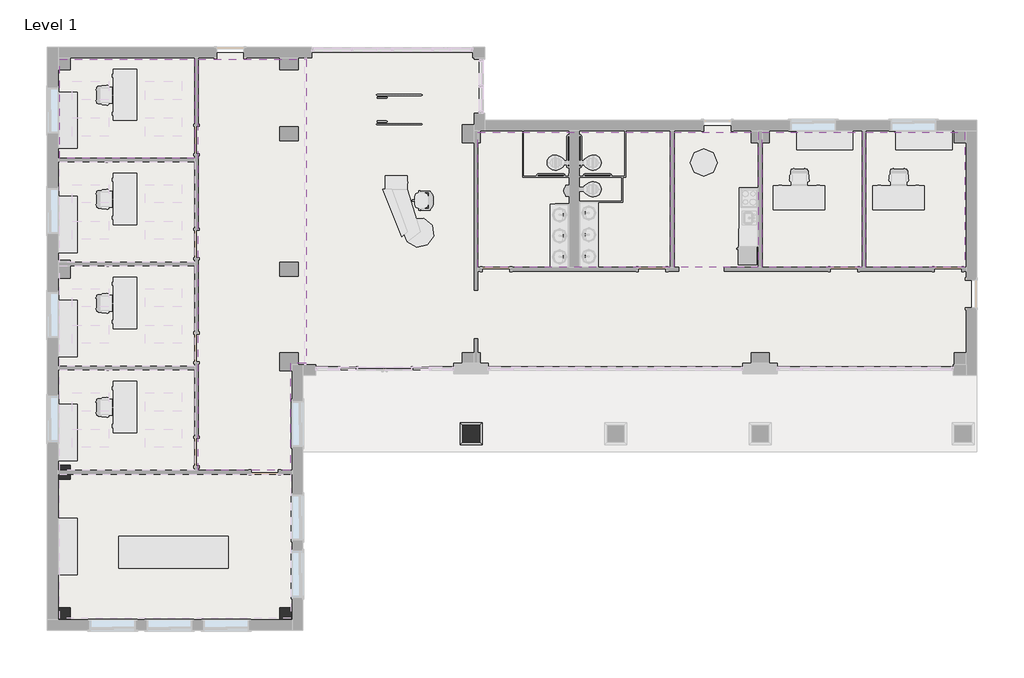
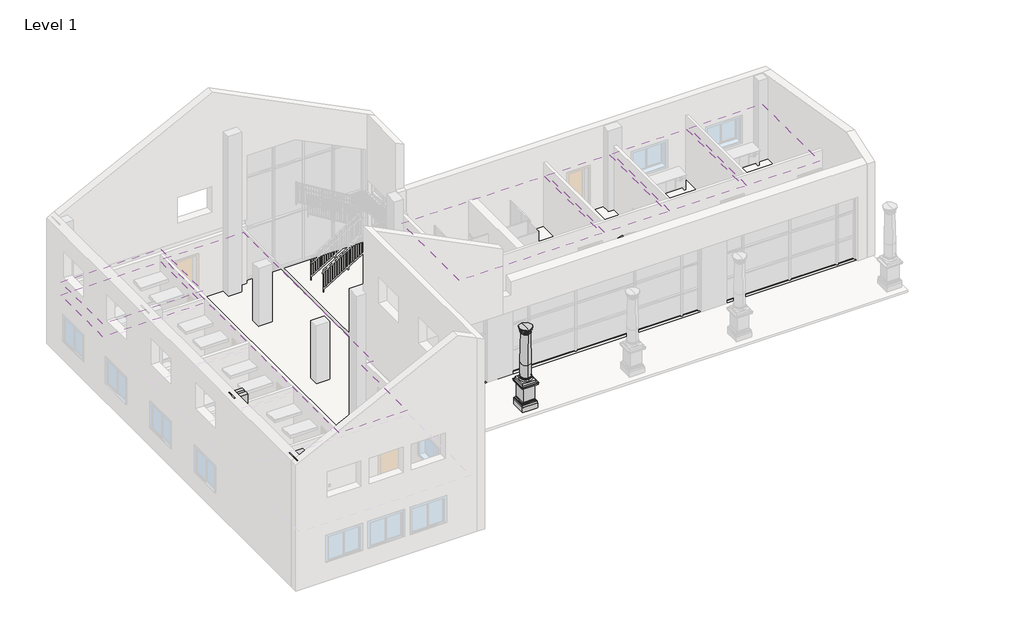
# One storey, part 4 of 8: 7 coverings, 4 columns, 1 slab.
"""IFC4 building model written with IfcOpenShell, lengths in millimetres."""

from ifc_helpers import new_model, si_unit, point, frame, origin, place, context, project, spatial, polyline, circle_curve, ellipse_curve, trimmed, outline, extrude, faceted_brep, element, save
from ifc_brep_helpers import plane_surface, cylinder_surface, revolved_surface, advanced_brep

model = new_model("IFC4")

# Units and contexts
model_context = context("Model", 3, world=origin())
ifc_project = project(units=[si_unit("LENGTHUNIT", "METRE", prefix="MILLI")], contexts=[model_context])

# Site, building, storey
site = spatial("IfcSite", under=ifc_project)
building = spatial("IfcBuilding", under=site)
storey = spatial("IfcBuildingStorey", under=building, Name="Level 1", Elevation=0.0)

# Columns
placement = place(None, origin())
element("IfcColumn", 1, ObjectType="Doric Column : 16'  Height (10 2/3 x Dia.)", at=placement, inside=storey, context=model_context, shape_type="SolidModel", body=[
    extrude(outline(polyline([(529.1733448, -1720.0769576), (529.1733448, -2297.9269576), (-48.6766552, -2297.9269576), (-48.6766552, -1720.0769576), (529.1733448, -1720.0769576)])), frame((0.0, 0.0, 1117.6), z_axis=(0.0, 0.0, 1.0), x_axis=(1.0, 0.0, 0.0)), (0.0, 0.0, 1.0), 107.95),
    faceted_brep([(11.6483448, -2237.6019576, 1117.6), (-131.2266552, -2380.4769576, 1117.6), (611.7233448, -2380.4769576, 1117.6), (468.8483448, -2237.6019576, 1117.6), (11.6483448, -2237.6019576, 1003.3), (468.8483448, -2237.6019576, 1003.3), (-59.6345723, -2308.8848746, 1003.3), (540.1312619, -2308.8848746, 1003.3), (-93.1266552, -2342.3769576, 1028.7), (573.6233448, -2342.3769576, 1028.7), (-118.5266552, -2367.7769576, 1028.7), (599.0233448, -2367.7769576, 1028.7), (-118.5266552, -2367.7769576, 1092.2), (599.0233448, -2367.7769576, 1092.2), (-131.2266552, -2380.4769576, 1092.2), (611.7233448, -2380.4769576, 1092.2), (611.7233448, -1637.5269576, 1117.6), (468.8483448, -1780.4019576, 1117.6), (468.8483448, -1780.4019576, 1003.3), (540.1312619, -1709.1190405, 1003.3), (573.6233448, -1675.6269576, 1028.7), (599.0233448, -1650.2269576, 1028.7), (599.0233448, -1650.2269576, 1092.2), (611.7233448, -1637.5269576, 1092.2), (-131.2266552, -1637.5269576, 1117.6), (11.6483448, -1780.4019576, 1117.6), (11.6483448, -1780.4019576, 1003.3), (-59.6345723, -1709.1190405, 1003.3), (-93.1266552, -1675.6269576, 1028.7), (-118.5266552, -1650.2269576, 1028.7), (-118.5266552, -1650.2269576, 1092.2), (-131.2266552, -1637.5269576, 1092.2)], [[[0, 1, 2, 3]], [[4, 0, 3, 5]], [[6, 4, 5, 7]], [[8, 6, 7, 9]], [[10, 8, 9, 11]], [[12, 10, 11, 13]], [[14, 12, 13, 15]], [[1, 14, 15, 2]], [[3, 2, 16, 17]], [[5, 3, 17, 18]], [[7, 5, 18, 19]], [[9, 7, 19, 20]], [[11, 9, 20, 21]], [[13, 11, 21, 22]], [[15, 13, 22, 23]], [[2, 15, 23, 16]], [[17, 16, 24, 25]], [[18, 17, 25, 26]], [[19, 18, 26, 27]], [[20, 19, 27, 28]], [[21, 20, 28, 29]], [[22, 21, 29, 30]], [[23, 22, 30, 31]], [[16, 23, 31, 24]], [[25, 24, 1, 0]], [[26, 25, 0, 4]], [[27, 26, 4, 6]], [[28, 27, 6, 8]], [[29, 28, 8, 10]], [[30, 29, 10, 12]], [[31, 30, 12, 14]], [[24, 31, 14, 1]]]),
    advanced_brep(
    [(240.2483448, -2256.6519576, 1358.9), (240.2483448, -1761.3519576, 1358.9), (240.2483448, -1780.4019576, 1377.95), (240.2483448, -2237.6019576, 1377.95), (240.2483448, -1780.4019576, 1976.1708333), (240.2483448, -2237.6019576, 1976.1708333), (240.2483448, -2256.6519576, 1339.85), (240.2483448, -1761.3519576, 1339.85), (240.2483448, -2256.6519576, 1308.1), (240.2483448, -1761.3519576, 1308.1), (240.2483448, -2256.6519576, 1225.55), (240.2483448, -1761.3519576, 1225.55), (240.2483448, -2009.0019576, 1225.55), (240.2483448, -1808.9769576, 3439.3125), (240.2483448, -2209.0269576, 3439.3125), (240.2483448, -2301.1019576, 3674.2625601), (240.2483448, -1716.9019576, 3674.2625601), (240.2483448, -1716.9019576, 3693.3125), (240.2483448, -2301.1019576, 3693.3125), (240.2483448, -2009.0019576, 3693.3125), (240.2483448, -2282.0518974, 3655.2125), (240.2483448, -1735.9520177, 3655.2125), (240.2483448, -2278.8769576, 3655.2125), (240.2483448, -1739.1269576, 3655.2125), (240.2483448, -2278.8769576, 3604.4125), (240.2483448, -1739.1269576, 3604.4125), (240.2483448, -2272.5269576, 3604.4125), (240.2483448, -1745.4769576, 3604.4125), (240.2483448, -2228.0769576, 3559.9625), (240.2483448, -1789.9269576, 3559.9625), (240.2483448, -2228.0769576, 3540.9125), (240.2483448, -1789.9269576, 3540.9125), (240.2483448, -2209.0269576, 3540.9125), (240.2483448, -1808.9769576, 3540.9125), (240.2483448, -2209.0269576, 3458.3625), (240.2483448, -1808.9769576, 3458.3625), (240.2483448, -2228.0769576, 3458.3625), (240.2483448, -1789.9269576, 3458.3625), (240.2483448, -2228.0769576, 3439.3125), (240.2483448, -1789.9269576, 3439.3125)],
    [
        (0, 1, circle_curve(frame((240.2483448, -2009.0019576, 1358.9), z_axis=(0.0, 0.0, 1.0), x_axis=(0.0, 1.0, 0.0)), 247.65)),
        (1, 2, circle_curve(frame((240.2483448, -1761.3519576, 1377.95), z_axis=(-1.0, 0.0, 0.0), x_axis=(0.0, -1.0, 0.0)), 19.05)),
        (2, 3, circle_curve(frame((240.2483448, -2009.0019576, 1377.95), z_axis=(0.0, 0.0, -1.0), x_axis=(0.0, 1.0, 0.0)), 228.6)),
        (3, 0, circle_curve(frame((240.2483448, -2256.6519576, 1377.95), z_axis=(-1.0, 0.0, 0.0), x_axis=(0.0, 1.0, 0.0)), 19.05)),
        (2, 4),
        (4, 5, circle_curve(frame((240.2483448, -2009.0019576, 1976.1708333), z_axis=(0.0, 0.0, -1.0), x_axis=(0.0, 1.0, 0.0)), 228.6)),
        (5, 3),
        (2, 3, circle_curve(frame((240.2483448, -2009.0019576, 1377.95), z_axis=(0.0, 0.0, 1.0), x_axis=(0.0, 1.0, 0.0)), 228.6)),
        (5, 4, circle_curve(frame((240.2483448, -2009.0019576, 1976.1708333), z_axis=(0.0, 0.0, -1.0), x_axis=(0.0, 1.0, 0.0)), 228.6)),
        (1, 0, circle_curve(frame((240.2483448, -2009.0019576, 1358.9), z_axis=(0.0, 0.0, 1.0), x_axis=(0.0, 1.0, 0.0)), 247.65)),
        (6, 7, circle_curve(frame((240.2483448, -2009.0019576, 1339.85), z_axis=(0.0, 0.0, 1.0), x_axis=(0.0, 1.0, 0.0)), 247.65)),
        (7, 1),
        (0, 6),
        (7, 6, circle_curve(frame((240.2483448, -2009.0019576, 1339.85), z_axis=(0.0, 0.0, 1.0), x_axis=(0.0, 1.0, 0.0)), 247.65)),
        (8, 9, circle_curve(frame((240.2483448, -2009.0019576, 1308.1), z_axis=(0.0, 0.0, 1.0), x_axis=(0.0, 1.0, 0.0)), 247.65)),
        (9, 7, circle_curve(frame((240.2483448, -1761.3519576, 1323.975), z_axis=(1.0, 0.0, 0.0), x_axis=(0.0, -1.0, 0.0)), 15.875)),
        (6, 8, circle_curve(frame((240.2483448, -2256.6519576, 1323.975), z_axis=(1.0, 0.0, 0.0), x_axis=(0.0, 1.0, 0.0)), 15.875)),
        (9, 8, circle_curve(frame((240.2483448, -2009.0019576, 1308.1), z_axis=(0.0, 0.0, 1.0), x_axis=(0.0, 1.0, 0.0)), 247.65)),
        (10, 11, circle_curve(frame((240.2483448, -2009.0019576, 1225.55), z_axis=(0.0, 0.0, 1.0), x_axis=(0.0, 1.0, 0.0)), 247.65)),
        (11, 9, circle_curve(frame((240.2483448, -1761.3519576, 1266.825), z_axis=(1.0, 0.0, 0.0), x_axis=(0.0, -1.0, 0.0)), 41.275)),
        (8, 10, circle_curve(frame((240.2483448, -2256.6519576, 1266.825), z_axis=(1.0, 0.0, 0.0), x_axis=(0.0, 1.0, 0.0)), 41.275)),
        (11, 10, circle_curve(frame((240.2483448, -2009.0019576, 1225.55), z_axis=(0.0, 0.0, 1.0), x_axis=(0.0, 1.0, 0.0)), 247.65)),
        (12, 11),
        (10, 12),
        (4, 13),
        (13, 14, circle_curve(frame((240.2483448, -2009.0019576, 3439.3125), z_axis=(0.0, 0.0, -1.0), x_axis=(0.0, 1.0, 0.0)), 200.025)),
        (14, 5),
        (14, 13, circle_curve(frame((240.2483448, -2009.0019576, 3439.3125), z_axis=(0.0, 0.0, -1.0), x_axis=(0.0, 1.0, 0.0)), 200.025)),
        (15, 16, circle_curve(frame((240.2483448, -2009.0019576, 3674.2625601), z_axis=(0.0, 0.0, 1.0), x_axis=(0.0, 1.0, 0.0)), 292.1)),
        (16, 17),
        (17, 18, circle_curve(frame((240.2483448, -2009.0019576, 3693.3125), z_axis=(0.0, 0.0, -1.0), x_axis=(0.0, 1.0, 0.0)), 292.1)),
        (18, 15),
        (17, 19),
        (19, 18),
        (17, 18, circle_curve(frame((240.2483448, -2009.0019576, 3693.3125), z_axis=(0.0, 0.0, 1.0), x_axis=(0.0, 1.0, 0.0)), 292.1)),
        (16, 15, circle_curve(frame((240.2483448, -2009.0019576, 3674.2625601), z_axis=(0.0, 0.0, 1.0), x_axis=(0.0, 1.0, 0.0)), 292.1)),
        (20, 21, circle_curve(frame((240.2483448, -2009.0019576, 3655.2125), z_axis=(0.0, 0.0, 1.0), x_axis=(0.0, 1.0, 0.0)), 273.0499399)),
        (21, 16, circle_curve(frame((240.2483448, -1716.9019576, 3655.2125), z_axis=(-1.0, 0.0, 0.0), x_axis=(0.0, -1.0, 0.0)), 19.0500601)),
        (15, 20, circle_curve(frame((240.2483448, -2301.1019576, 3655.2125), z_axis=(-1.0, 0.0, 0.0), x_axis=(0.0, 1.0, 0.0)), 19.0500601)),
        (21, 20, circle_curve(frame((240.2483448, -2009.0019576, 3655.2125), z_axis=(0.0, 0.0, 1.0), x_axis=(0.0, 1.0, 0.0)), 273.0499399)),
        (22, 23, circle_curve(frame((240.2483448, -2009.0019576, 3655.2125), z_axis=(0.0, 0.0, 1.0), x_axis=(0.0, 1.0, 0.0)), 269.875)),
        (23, 21),
        (20, 22),
        (23, 22, circle_curve(frame((240.2483448, -2009.0019576, 3655.2125), z_axis=(0.0, 0.0, 1.0), x_axis=(0.0, 1.0, 0.0)), 269.875)),
        (24, 25, circle_curve(frame((240.2483448, -2009.0019576, 3604.4125), z_axis=(0.0, 0.0, 1.0), x_axis=(0.0, 1.0, 0.0)), 269.875)),
        (25, 23),
        (22, 24),
        (25, 24, circle_curve(frame((240.2483448, -2009.0019576, 3604.4125), z_axis=(0.0, 0.0, 1.0), x_axis=(0.0, 1.0, 0.0)), 269.875)),
        (26, 27, circle_curve(frame((240.2483448, -2009.0019576, 3604.4125), z_axis=(0.0, 0.0, 1.0), x_axis=(0.0, 1.0, 0.0)), 263.525)),
        (27, 25),
        (24, 26),
        (27, 26, circle_curve(frame((240.2483448, -2009.0019576, 3604.4125), z_axis=(0.0, 0.0, 1.0), x_axis=(0.0, 1.0, 0.0)), 263.525)),
        (28, 29, circle_curve(frame((240.2483448, -2009.0019576, 3559.9625), z_axis=(0.0, 0.0, 1.0), x_axis=(0.0, 1.0, 0.0)), 219.075)),
        (29, 27, circle_curve(frame((240.2483448, -1789.9269576, 3604.4125), z_axis=(1.0, 0.0, 0.0), x_axis=(0.0, -1.0, 0.0)), 44.45)),
        (26, 28, circle_curve(frame((240.2483448, -2228.0769576, 3604.4125), z_axis=(1.0, 0.0, 0.0), x_axis=(0.0, 1.0, 0.0)), 44.45)),
        (29, 28, circle_curve(frame((240.2483448, -2009.0019576, 3559.9625), z_axis=(0.0, 0.0, 1.0), x_axis=(0.0, 1.0, 0.0)), 219.075)),
        (30, 31, circle_curve(frame((240.2483448, -2009.0019576, 3540.9125), z_axis=(0.0, 0.0, 1.0), x_axis=(0.0, 1.0, 0.0)), 219.075)),
        (31, 29, circle_curve(frame((240.2483448, -1789.9269576, 3550.4375), z_axis=(1.0, 0.0, 0.0), x_axis=(0.0, -1.0, 0.0)), 9.525)),
        (28, 30, circle_curve(frame((240.2483448, -2228.0769576, 3550.4375), z_axis=(1.0, 0.0, 0.0), x_axis=(0.0, 1.0, 0.0)), 9.525)),
        (31, 30, circle_curve(frame((240.2483448, -2009.0019576, 3540.9125), z_axis=(0.0, 0.0, 1.0), x_axis=(0.0, 1.0, 0.0)), 219.075)),
        (32, 33, circle_curve(frame((240.2483448, -2009.0019576, 3540.9125), z_axis=(0.0, 0.0, 1.0), x_axis=(0.0, 1.0, 0.0)), 200.025)),
        (33, 31),
        (30, 32),
        (33, 32, circle_curve(frame((240.2483448, -2009.0019576, 3540.9125), z_axis=(0.0, 0.0, 1.0), x_axis=(0.0, 1.0, 0.0)), 200.025)),
        (34, 35, circle_curve(frame((240.2483448, -2009.0019576, 3458.3625), z_axis=(0.0, 0.0, 1.0), x_axis=(0.0, 1.0, 0.0)), 200.025)),
        (35, 33),
        (32, 34),
        (35, 34, circle_curve(frame((240.2483448, -2009.0019576, 3458.3625), z_axis=(0.0, 0.0, 1.0), x_axis=(0.0, 1.0, 0.0)), 200.025)),
        (36, 37, circle_curve(frame((240.2483448, -2009.0019576, 3458.3625), z_axis=(0.0, 0.0, 1.0), x_axis=(0.0, 1.0, 0.0)), 219.075)),
        (37, 35),
        (34, 36),
        (37, 36, circle_curve(frame((240.2483448, -2009.0019576, 3458.3625), z_axis=(0.0, 0.0, 1.0), x_axis=(0.0, 1.0, 0.0)), 219.075)),
        (38, 39, circle_curve(frame((240.2483448, -2009.0019576, 3439.3125), z_axis=(0.0, 0.0, 1.0), x_axis=(0.0, 1.0, 0.0)), 219.075)),
        (39, 37, circle_curve(frame((240.2483448, -1789.9269576, 3448.8375), z_axis=(1.0, 0.0, 0.0), x_axis=(0.0, -1.0, 0.0)), 9.525)),
        (36, 38, circle_curve(frame((240.2483448, -2228.0769576, 3448.8375), z_axis=(1.0, 0.0, 0.0), x_axis=(0.0, 1.0, 0.0)), 9.525)),
        (39, 38, circle_curve(frame((240.2483448, -2009.0019576, 3439.3125), z_axis=(0.0, 0.0, 1.0), x_axis=(0.0, 1.0, 0.0)), 219.075)),
        (13, 39),
        (38, 14),
    ],
    [
        revolved_surface(trimmed(ellipse_curve(frame((240.2483448, -1761.3519576, 1377.95), z_axis=(1.0, 0.0, 0.0), x_axis=(0.0, -1.0, 0.0)), 19.05, 19.05), [point((240.2483448, -1780.4019576, 1377.95))], [point((240.2483448, -1761.3519576, 1358.9))], True, "CARTESIAN"), (240.2483448, -2009.0019576, 3693.3125), (0.0, 0.0, -1.0)),
        cylinder_surface(frame((240.2483448, -2009.0019576, 3693.3125), z_axis=(0.0, 0.0, -1.0), x_axis=(0.0, 1.0, 0.0)), 228.6),
        cylinder_surface(frame((240.2483448, -2009.0019576, 3693.3125), z_axis=(0.0, 0.0, -1.0), x_axis=(0.0, 1.0, 0.0)), 247.65),
        revolved_surface(trimmed(ellipse_curve(frame((240.2483448, -1761.3519576, 1323.975), z_axis=(-1.0, 0.0, 0.0), x_axis=(0.0, -1.0, 0.0)), 15.875, 15.875), [point((240.2483448, -1761.3519576, 1339.85))], [point((240.2483448, -1761.3519576, 1308.1))], True, "CARTESIAN"), (240.2483448, -2009.0019576, 3693.3125), (0.0, 0.0, -1.0)),
        revolved_surface(trimmed(ellipse_curve(frame((240.2483448, -1761.3519576, 1266.825), z_axis=(-1.0, 0.0, 0.0), x_axis=(0.0, -1.0, 0.0)), 41.275, 41.275), [point((240.2483448, -1761.3519576, 1308.1))], [point((240.2483448, -1761.3519576, 1225.55))], True, "CARTESIAN"), (240.2483448, -2009.0019576, 3693.3125), (0.0, 0.0, -1.0)),
        plane_surface(frame((240.2483448, -2009.0019576, 1225.55), z_axis=(0.0, 0.0, -1.0), x_axis=(0.0, 1.0, 0.0))),
        revolved_surface(polyline([(240.2483448, -1808.9769576, 3439.3125), (240.2483448, -1780.4019576, 1976.1708333)]), (240.2483448, -2009.0019576, 3693.3125), (0.0, 0.0, -1.0)),
        cylinder_surface(frame((240.2483448, -2009.0019576, 3693.3125), z_axis=(0.0, 0.0, -1.0), x_axis=(0.0, 1.0, 0.0)), 292.1),
        plane_surface(frame((240.2483448, -2009.0019576, 3693.3125), z_axis=(0.0, 0.0, 1.0), x_axis=(0.0, 1.0, 0.0))),
        revolved_surface(trimmed(ellipse_curve(frame((240.2483448, -1716.9019576, 3655.2125), z_axis=(1.0, 0.0, 0.0), x_axis=(0.0, -1.0, 0.0)), 19.0500601, 19.0500601), [point((240.2483448, -1716.9019576, 3674.2625601))], [point((240.2483448, -1735.9520177, 3655.2125))], True, "CARTESIAN"), (240.2483448, -2009.0019576, 3693.3125), (0.0, 0.0, -1.0)),
        plane_surface(frame((240.2483448, -2009.0019576, 3655.2125), z_axis=(0.0, 0.0, -1.0), x_axis=(0.0, 1.0, 0.0))),
        cylinder_surface(frame((240.2483448, -2009.0019576, 3693.3125), z_axis=(0.0, 0.0, -1.0), x_axis=(0.0, 1.0, 0.0)), 269.875),
        plane_surface(frame((240.2483448, -2009.0019576, 3604.4125), z_axis=(0.0, 0.0, -1.0), x_axis=(0.0, 1.0, 0.0))),
        revolved_surface(trimmed(ellipse_curve(frame((240.2483448, -1789.9269576, 3604.4125), z_axis=(-1.0, 0.0, 0.0), x_axis=(0.0, -1.0, 0.0)), 44.45, 44.45), [point((240.2483448, -1745.4769576, 3604.4125))], [point((240.2483448, -1789.9269576, 3559.9625))], True, "CARTESIAN"), (240.2483448, -2009.0019576, 3693.3125), (0.0, 0.0, -1.0)),
        revolved_surface(trimmed(ellipse_curve(frame((240.2483448, -1789.9269576, 3550.4375), z_axis=(-1.0, 0.0, 0.0), x_axis=(0.0, -1.0, 0.0)), 9.525, 9.525), [point((240.2483448, -1789.9269576, 3559.9625))], [point((240.2483448, -1789.9269576, 3540.9125))], True, "CARTESIAN"), (240.2483448, -2009.0019576, 3693.3125), (0.0, 0.0, -1.0)),
        plane_surface(frame((240.2483448, -2009.0019576, 3540.9125), z_axis=(0.0, 0.0, -1.0), x_axis=(0.0, 1.0, 0.0))),
        cylinder_surface(frame((240.2483448, -2009.0019576, 3693.3125), z_axis=(0.0, 0.0, -1.0), x_axis=(0.0, 1.0, 0.0)), 200.025),
        plane_surface(frame((240.2483448, -2009.0019576, 3458.3625), z_axis=(0.0, 0.0, 1.0), x_axis=(0.0, 1.0, 0.0))),
        revolved_surface(trimmed(ellipse_curve(frame((240.2483448, -1789.9269576, 3448.8375), z_axis=(-1.0, 0.0, 0.0), x_axis=(0.0, -1.0, 0.0)), 9.525, 9.525), [point((240.2483448, -1789.9269576, 3458.3625))], [point((240.2483448, -1789.9269576, 3439.3125))], True, "CARTESIAN"), (240.2483448, -2009.0019576, 3693.3125), (0.0, 0.0, -1.0)),
        plane_surface(frame((240.2483448, -2009.0019576, 3439.3125), z_axis=(0.0, 0.0, -1.0), x_axis=(0.0, 1.0, 0.0))),
    ],
    [
        (0, [[1, 2, 3, 4]]),
        (1, [[-3, 5, 6, 7]]),
        (1, [[8, -7, 9, -5]]),
        (0, [[10, -4, -8, -2]]),
        (2, [[11, 12, -1, 13]]),
        (2, [[14, -13, -10, -12]]),
        (3, [[15, 16, -11, 17]]),
        (3, [[18, -17, -14, -16]]),
        (4, [[19, 20, -15, 21]]),
        (4, [[22, -21, -18, -20]]),
        (5, [[23, -19, 24]]),
        (5, [[-24, -22, -23]]),
        (6, [[-6, 25, 26, 27]]),
        (6, [[-9, -27, 28, -25]]),
        (7, [[29, 30, 31, 32]]),
        (8, [[-31, 33, 34]]),
        (8, [[35, -34, -33]]),
        (7, [[36, -32, -35, -30]]),
        (9, [[37, 38, -29, 39]]),
        (9, [[40, -39, -36, -38]]),
        (10, [[41, 42, -37, 43]]),
        (10, [[44, -43, -40, -42]]),
        (11, [[45, 46, -41, 47]]),
        (11, [[48, -47, -44, -46]]),
        (12, [[49, 50, -45, 51]]),
        (12, [[52, -51, -48, -50]]),
        (13, [[53, 54, -49, 55]]),
        (13, [[56, -55, -52, -54]]),
        (14, [[57, 58, -53, 59]]),
        (14, [[60, -59, -56, -58]]),
        (15, [[61, 62, -57, 63]]),
        (15, [[64, -63, -60, -62]]),
        (16, [[65, 66, -61, 67]]),
        (16, [[68, -67, -64, -66]]),
        (17, [[69, 70, -65, 71]]),
        (17, [[72, -71, -68, -70]]),
        (18, [[73, 74, -69, 75]]),
        (18, [[76, -75, -72, -74]]),
        (19, [[-26, 77, -73, 78]]),
        (19, [[-28, -78, -76, -77]]),
    ],
),
    advanced_brep(
    [(585.6934911, -1663.5568112, -101.6), (585.6934911, -1663.5568112, 127.0), (585.6934911, -2354.4471039, 127.0), (585.6934911, -2354.4471039, -101.6), (468.8483448, -1780.4019576, -101.6), (468.8483448, -2237.6019576, -101.6), (468.8483448, -1780.4019576, 317.5), (468.8483448, -2237.6019576, 317.5), (503.1434911, -1746.1068112, 317.5), (503.1434911, -2271.8971039, 317.5), (522.1934911, -1727.0568112, 298.45), (522.1934911, -2290.9471039, 298.45), (522.1934911, -1727.0568112, 279.4), (522.1934911, -2290.9471039, 279.4), (544.4184911, -1704.8318112, 257.175), (544.4184911, -2313.1721039, 257.175), (566.6434911, -1682.6068112, 234.95), (566.6434911, -2335.3971039, 234.95), (566.6434911, -1682.6068112, 215.9), (566.6434911, -2335.3971039, 215.9), (576.1684911, -1673.0818112, 215.9), (576.1684911, -2344.9221039, 215.9), (576.1684911, -1673.0818112, 127.0), (576.1684911, -2344.9221039, 127.0), (-105.1968015, -2354.4471039, 127.0), (-105.1968015, -2354.4471039, -101.6), (11.6483448, -2237.6019576, -101.6), (11.6483448, -2237.6019576, 317.5), (-22.6468015, -2271.8971039, 317.5), (-41.6968015, -2290.9471039, 298.45), (-41.6968015, -2290.9471039, 279.4), (-63.9218015, -2313.1721039, 257.175), (-86.1468015, -2335.3971039, 234.95), (-86.1468015, -2335.3971039, 215.9), (-95.6718015, -2344.9221039, 215.9), (-95.6718015, -2344.9221039, 127.0), (-105.1968015, -1663.5568112, 127.0), (-105.1968015, -1663.5568112, -101.6), (11.6483448, -1780.4019576, -101.6), (11.6483448, -1780.4019576, 317.5), (-22.6468015, -1746.1068112, 317.5), (-41.6968015, -1727.0568112, 298.45), (-41.6968015, -1727.0568112, 279.4), (-63.9218015, -1704.8318112, 257.175), (-86.1468015, -1682.6068112, 234.95), (-86.1468015, -1682.6068112, 215.9), (-95.6718015, -1673.0818112, 215.9), (-95.6718015, -1673.0818112, 127.0)],
    [
        (0, 1),
        (1, 2),
        (2, 3),
        (3, 0),
        (4, 0),
        (3, 5),
        (5, 4),
        (6, 4),
        (5, 7),
        (7, 6),
        (8, 6),
        (7, 9),
        (9, 8),
        (10, 8, ellipse_curve(frame((522.1934911, -1727.0568112, 317.5), z_axis=(-0.7071067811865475, 0.7071067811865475, 0.0), x_axis=(-0.7071067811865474, -0.7071067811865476, 0.0)), 26.9407684, 19.05)),
        (9, 11, ellipse_curve(frame((522.1934911, -2290.9471039, 317.5), z_axis=(-0.7071067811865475, -0.7071067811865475, 0.0), x_axis=(0.7071067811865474, -0.7071067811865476, 0.0)), 26.9407684, 19.05)),
        (11, 10),
        (12, 10),
        (11, 13),
        (13, 12),
        (14, 12, ellipse_curve(frame((522.1934911, -1727.0568112, 257.175), z_axis=(0.7071067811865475, -0.7071067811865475, 0.0), x_axis=(0.7071067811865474, 0.7071067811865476, 0.0)), 31.4308964, 22.225)),
        (13, 15, ellipse_curve(frame((522.1934911, -2290.9471039, 257.175), z_axis=(0.7071067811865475, 0.7071067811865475, 0.0), x_axis=(-0.7071067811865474, 0.7071067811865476, 0.0)), 31.4308964, 22.225)),
        (15, 14),
        (16, 14, ellipse_curve(frame((566.6434911, -1682.6068112, 257.175), z_axis=(-0.7071067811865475, 0.7071067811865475, 0.0), x_axis=(-0.7071067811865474, -0.7071067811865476, 0.0)), 31.4308964, 22.225)),
        (15, 17, ellipse_curve(frame((566.6434911, -2335.3971039, 257.175), z_axis=(-0.7071067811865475, -0.7071067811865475, 0.0), x_axis=(0.7071067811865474, -0.7071067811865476, 0.0)), 31.4308964, 22.225)),
        (17, 16),
        (18, 16),
        (17, 19),
        (19, 18),
        (20, 18),
        (19, 21),
        (21, 20),
        (22, 20),
        (21, 23),
        (23, 22),
        (1, 22),
        (23, 2),
        (2, 24),
        (24, 25),
        (25, 3),
        (25, 26),
        (26, 5),
        (26, 27),
        (27, 7),
        (27, 28),
        (28, 9),
        (28, 29, ellipse_curve(frame((-41.6968015, -2290.9471039, 317.5), z_axis=(-0.7071067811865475, 0.7071067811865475, 0.0), x_axis=(-0.7071067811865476, -0.7071067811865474, 0.0)), 26.9407684, 19.05)),
        (29, 11),
        (29, 30),
        (30, 13),
        (30, 31, ellipse_curve(frame((-41.6968015, -2290.9471039, 257.175), z_axis=(0.7071067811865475, -0.7071067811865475, 0.0), x_axis=(0.7071067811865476, 0.7071067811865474, 0.0)), 31.4308964, 22.225)),
        (31, 15),
        (31, 32, ellipse_curve(frame((-86.1468015, -2335.3971039, 257.175), z_axis=(-0.7071067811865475, 0.7071067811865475, 0.0), x_axis=(-0.7071067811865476, -0.7071067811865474, 0.0)), 31.4308964, 22.225)),
        (32, 17),
        (32, 33),
        (33, 19),
        (33, 34),
        (34, 21),
        (34, 35),
        (35, 23),
        (35, 24),
        (24, 36),
        (36, 37),
        (37, 25),
        (37, 38),
        (38, 26),
        (38, 39),
        (39, 27),
        (39, 40),
        (40, 28),
        (40, 41, ellipse_curve(frame((-41.6968015, -1727.0568112, 317.5), z_axis=(0.7071067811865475, 0.7071067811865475, 0.0), x_axis=(-0.7071067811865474, 0.7071067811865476, 0.0)), 26.9407684, 19.05)),
        (41, 29),
        (41, 42),
        (42, 30),
        (42, 43, ellipse_curve(frame((-41.6968015, -1727.0568112, 257.175), z_axis=(-0.7071067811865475, -0.7071067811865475, 0.0), x_axis=(0.7071067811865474, -0.7071067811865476, 0.0)), 31.4308964, 22.225)),
        (43, 31),
        (43, 44, ellipse_curve(frame((-86.1468015, -1682.6068112, 257.175), z_axis=(0.7071067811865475, 0.7071067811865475, 0.0), x_axis=(-0.7071067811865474, 0.7071067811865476, 0.0)), 31.4308964, 22.225)),
        (44, 32),
        (44, 45),
        (45, 33),
        (45, 46),
        (46, 34),
        (46, 47),
        (47, 35),
        (47, 36),
        (36, 1),
        (0, 37),
        (4, 38),
        (6, 39),
        (8, 40),
        (10, 41),
        (12, 42),
        (14, 43),
        (16, 44),
        (18, 45),
        (20, 46),
        (22, 47),
    ],
    [
        plane_surface(frame((585.6934911, -1663.5568112, 127.0), z_axis=(1.0, 0.0, 0.0), x_axis=(0.0, -1.0, 0.0))),
        plane_surface(frame((585.6934911, -1663.5568112, -101.6), z_axis=(0.0, 0.0, -1.0), x_axis=(0.0, -1.0, 0.0))),
        plane_surface(frame((468.8483448, -1780.4019576, -101.6), z_axis=(-1.0, 0.0, 0.0), x_axis=(0.0, -1.0, 0.0))),
        plane_surface(frame((468.8483448, -1780.4019576, 317.5), z_axis=(0.0, 0.0, 1.0), x_axis=(0.0, -1.0, 0.0))),
        revolved_surface(polyline([(541.2434910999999, -2309.9971039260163, 317.5), (541.2434910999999, -1708.0068111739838, 317.5)]), (522.1934911, -1650.5418844, 317.5), (0.0, -1.0, 0.0)),
        plane_surface(frame((522.1934911, -1727.0568112, 298.45), z_axis=(1.0, 0.0, 0.0), x_axis=(0.0, -1.0, 0.0))),
        cylinder_surface(frame((522.1934911, -1650.5418844, 257.175), z_axis=(0.0, 1.0, 0.0), x_axis=(1.0, 0.0, 0.0)), 22.225),
        revolved_surface(polyline([(588.8684911, -2357.622103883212, 257.175), (588.8684911, -1660.3818112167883, 257.175)]), (566.6434911, -1650.5418844, 257.175), (0.0, -1.0, 0.0)),
        plane_surface(frame((566.6434911, -1682.6068112, 234.95), z_axis=(1.0, 0.0, 0.0), x_axis=(0.0, -1.0, 0.0))),
        plane_surface(frame((566.6434911, -1682.6068112, 215.9), z_axis=(0.0, 0.0, 1.0), x_axis=(0.0, -1.0, 0.0))),
        plane_surface(frame((576.1684911, -1673.0818112, 215.9), z_axis=(1.0, 0.0, 0.0), x_axis=(0.0, -1.0, 0.0))),
        plane_surface(frame((576.1684911, -1673.0818112, 127.0), z_axis=(0.0, 0.0, 1.0), x_axis=(0.0, -1.0, 0.0))),
        plane_surface(frame((585.6934911, -2354.4471039, 127.0), z_axis=(0.0, -1.0, 0.0), x_axis=(-1.0, 0.0, 0.0))),
        plane_surface(frame((585.6934911, -2354.4471039, -101.6), z_axis=(0.0, 0.0, -1.0), x_axis=(-1.0, 0.0, 0.0))),
        plane_surface(frame((468.8483448, -2237.6019576, -101.6), z_axis=(0.0, 1.0, 0.0), x_axis=(-1.0, 0.0, 0.0))),
        plane_surface(frame((468.8483448, -2237.6019576, 317.5), z_axis=(0.0, 0.0, 1.0), x_axis=(-1.0, 0.0, 0.0))),
        revolved_surface(polyline([(-60.74680152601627, -2309.9971039, 317.5), (541.2434911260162, -2309.9971039, 317.5)]), (598.708418, -2290.9471039, 317.5), (-1.0, 0.0, 0.0)),
        plane_surface(frame((522.1934911, -2290.9471039, 298.45), z_axis=(0.0, -1.0, 0.0), x_axis=(-1.0, 0.0, 0.0))),
        cylinder_surface(frame((598.708418, -2290.9471039, 257.175), z_axis=(1.0, 0.0, 0.0), x_axis=(0.0, -1.0, 0.0)), 22.225),
        revolved_surface(polyline([(-108.37180148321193, -2357.6221038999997, 257.175), (588.8684910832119, -2357.6221038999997, 257.175)]), (598.708418, -2335.3971039, 257.175), (-1.0, 0.0, 0.0)),
        plane_surface(frame((566.6434911, -2335.3971039, 234.95), z_axis=(0.0, -1.0, 0.0), x_axis=(-1.0, 0.0, 0.0))),
        plane_surface(frame((566.6434911, -2335.3971039, 215.9), z_axis=(0.0, 0.0, 1.0), x_axis=(-1.0, 0.0, 0.0))),
        plane_surface(frame((576.1684911, -2344.9221039, 215.9), z_axis=(0.0, -1.0, 0.0), x_axis=(-1.0, 0.0, 0.0))),
        plane_surface(frame((576.1684911, -2344.9221039, 127.0), z_axis=(0.0, 0.0, 1.0), x_axis=(-1.0, 0.0, 0.0))),
        plane_surface(frame((-105.1968015, -2354.4471039, 127.0), z_axis=(-1.0, 0.0, 0.0), x_axis=(0.0, 1.0, 0.0))),
        plane_surface(frame((-105.1968015, -2354.4471039, -101.6), z_axis=(0.0, 0.0, -1.0), x_axis=(0.0, 1.0, 0.0))),
        plane_surface(frame((11.6483448, -2237.6019576, -101.6), z_axis=(1.0, 0.0, 0.0), x_axis=(0.0, 1.0, 0.0))),
        plane_surface(frame((11.6483448, -2237.6019576, 317.5), z_axis=(0.0, 0.0, 1.0), x_axis=(0.0, 1.0, 0.0))),
        revolved_surface(polyline([(-60.746801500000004, -1708.0068111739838, 317.5), (-60.746801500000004, -2309.9971039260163, 317.5)]), (-41.6968015, -2367.4620307, 317.5), (0.0, 1.0, 0.0)),
        plane_surface(frame((-41.6968015, -2290.9471039, 298.45), z_axis=(-1.0, 0.0, 0.0), x_axis=(0.0, 1.0, 0.0))),
        cylinder_surface(frame((-41.6968015, -2367.4620307, 257.175), z_axis=(0.0, -1.0, 0.0), x_axis=(-1.0, 0.0, 0.0)), 22.225),
        revolved_surface(polyline([(-108.3718015, -1660.3818112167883, 257.175), (-108.3718015, -2357.622103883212, 257.175)]), (-86.1468015, -2367.4620307, 257.175), (0.0, 1.0, 0.0)),
        plane_surface(frame((-86.1468015, -2335.3971039, 234.95), z_axis=(-1.0, 0.0, 0.0), x_axis=(0.0, 1.0, 0.0))),
        plane_surface(frame((-86.1468015, -2335.3971039, 215.9), z_axis=(0.0, 0.0, 1.0), x_axis=(0.0, 1.0, 0.0))),
        plane_surface(frame((-95.6718015, -2344.9221039, 215.9), z_axis=(-1.0, 0.0, 0.0), x_axis=(0.0, 1.0, 0.0))),
        plane_surface(frame((-95.6718015, -2344.9221039, 127.0), z_axis=(0.0, 0.0, 1.0), x_axis=(0.0, 1.0, 0.0))),
        plane_surface(frame((-105.1968015, -1663.5568112, 127.0), z_axis=(0.0, 1.0, 0.0), x_axis=(1.0, 0.0, 0.0))),
        plane_surface(frame((-105.1968015, -1663.5568112, -101.6), z_axis=(0.0, 0.0, -1.0), x_axis=(1.0, 0.0, 0.0))),
        plane_surface(frame((11.6483448, -1780.4019576, -101.6), z_axis=(0.0, -1.0, 0.0), x_axis=(1.0, 0.0, 0.0))),
        plane_surface(frame((11.6483448, -1780.4019576, 317.5), z_axis=(0.0, 0.0, 1.0), x_axis=(1.0, 0.0, 0.0))),
        revolved_surface(polyline([(541.2434911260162, -1708.0068112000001, 317.5), (-60.74680152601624, -1708.0068112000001, 317.5)]), (-118.2117283, -1727.0568112, 317.5), (1.0, 0.0, 0.0)),
        plane_surface(frame((-41.6968015, -1727.0568112, 298.45), z_axis=(0.0, 1.0, 0.0), x_axis=(1.0, 0.0, 0.0))),
        cylinder_surface(frame((-118.2117283, -1727.0568112, 257.175), z_axis=(-1.0, 0.0, 0.0), x_axis=(0.0, 1.0, 0.0)), 22.225),
        revolved_surface(polyline([(588.8684910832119, -1660.3818112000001, 257.175), (-108.37180148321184, -1660.3818112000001, 257.175)]), (-118.2117283, -1682.6068112, 257.175), (1.0, 0.0, 0.0)),
        plane_surface(frame((-86.1468015, -1682.6068112, 234.95), z_axis=(0.0, 1.0, 0.0), x_axis=(1.0, 0.0, 0.0))),
        plane_surface(frame((-86.1468015, -1682.6068112, 215.9), z_axis=(0.0, 0.0, 1.0), x_axis=(1.0, 0.0, 0.0))),
        plane_surface(frame((-95.6718015, -1673.0818112, 215.9), z_axis=(0.0, 1.0, 0.0), x_axis=(1.0, 0.0, 0.0))),
        plane_surface(frame((-95.6718015, -1673.0818112, 127.0), z_axis=(0.0, 0.0, 1.0), x_axis=(1.0, 0.0, 0.0))),
    ],
    [
        (0, [[1, 2, 3, 4]]),
        (1, [[5, -4, 6, 7]]),
        (2, [[8, -7, 9, 10]]),
        (3, [[11, -10, 12, 13]]),
        (4, [[14, -13, 15, 16]]),
        (5, [[17, -16, 18, 19]]),
        (6, [[20, -19, 21, 22]]),
        (7, [[23, -22, 24, 25]]),
        (8, [[26, -25, 27, 28]]),
        (9, [[29, -28, 30, 31]]),
        (10, [[32, -31, 33, 34]]),
        (11, [[35, -34, 36, -2]]),
        (12, [[-3, 37, 38, 39]]),
        (13, [[-6, -39, 40, 41]]),
        (14, [[-9, -41, 42, 43]]),
        (15, [[-12, -43, 44, 45]]),
        (16, [[-15, -45, 46, 47]]),
        (17, [[-18, -47, 48, 49]]),
        (18, [[-21, -49, 50, 51]]),
        (19, [[-24, -51, 52, 53]]),
        (20, [[-27, -53, 54, 55]]),
        (21, [[-30, -55, 56, 57]]),
        (22, [[-33, -57, 58, 59]]),
        (23, [[-36, -59, 60, -37]]),
        (24, [[-38, 61, 62, 63]]),
        (25, [[-40, -63, 64, 65]]),
        (26, [[-42, -65, 66, 67]]),
        (27, [[-44, -67, 68, 69]]),
        (28, [[-46, -69, 70, 71]]),
        (29, [[-48, -71, 72, 73]]),
        (30, [[-50, -73, 74, 75]]),
        (31, [[-52, -75, 76, 77]]),
        (32, [[-54, -77, 78, 79]]),
        (33, [[-56, -79, 80, 81]]),
        (34, [[-58, -81, 82, 83]]),
        (35, [[-60, -83, 84, -61]]),
        (36, [[-62, 85, -1, 86]]),
        (37, [[-64, -86, -5, 87]]),
        (38, [[-66, -87, -8, 88]]),
        (39, [[-68, -88, -11, 89]]),
        (40, [[-70, -89, -14, 90]]),
        (41, [[-72, -90, -17, 91]]),
        (42, [[-74, -91, -20, 92]]),
        (43, [[-76, -92, -23, 93]]),
        (44, [[-78, -93, -26, 94]]),
        (45, [[-80, -94, -29, 95]]),
        (46, [[-82, -95, -32, 96]]),
        (47, [[-84, -96, -35, -85]]),
    ],
),
    extrude(outline(polyline([(503.7733448, -1745.4769576), (503.7733448, -2272.5269576), (-23.2766552, -2272.5269576), (-23.2766552, -1745.4769576), (503.7733448, -1745.4769576)])), frame((0.0, 0.0, 317.5), z_axis=(0.0, 0.0, 1.0), x_axis=(1.0, 0.0, 0.0)), (0.0, 0.0, 1.0), 685.8),
])
element("IfcColumn", 2, ObjectType="Rectangular Column : 18\" x 24\"", at=placement, inside=storey, context=model_context, shape_type="SweptSolid", body=[
    extrude(outline(polyline([(-3066.2769576, 6100.0), (-3066.2769576, 0.0), (-3232.9644576, 0.0), (-3232.9644576, 2755.2), (-3356.7894576, 2755.2), (-3356.7894576, 0.0), (-3523.4769576, 0.0), (-3523.4769576, 6100.0), (-3356.7894576, 6100.0), (-3356.7894576, 3060.0), (-3232.9644576, 3060.0), (-3232.9644576, 6100.0), (-3066.2769576, 6100.0)])), frame((-13583.7016552, 0.0, 0.0), z_axis=(1.0, 0.0, 0.0), x_axis=(0.0, 1.0, 0.0)), (0.0, 0.0, 1.0), 406.4),
    extrude(outline(polyline([(6100.0, -13748.8016552), (6100.0, -13786.9016552), (6080.95, -13786.9016552), (6100.0, -13748.8016552)])), frame((0.0, -3523.4769576, 0.0), z_axis=(0.0, 1.0, 0.0), x_axis=(0.0, 0.0, 1.0)), (0.0, 0.0, 1.0), 457.2),
])
element("IfcColumn", 3, ObjectType="Rectangular Column : 24\" x 24\"", at=placement, inside=storey, context=model_context, shape_type="Brep", body=[
    faceted_brep([(-13177.3016552, -8233.5894576, 6100.0), (-13177.3016552, -7827.1894576, 6100.0), (-13583.7016552, -7827.1894576, 6100.0), (-13583.7016552, -8233.5894576, 6100.0), (-13177.3016552, -7827.1894576, 0.0), (-13177.3016552, -8233.5894576, 0.0), (-13583.7016552, -8233.5894576, 0.0), (-13583.7016552, -7827.1894576, 0.0), (-13583.7016552, -8233.5894576, 3060.0), (-13583.7016552, -8233.5894576, 2755.2)], [[[0, 1, 2, 3]], [[4, 5, 6, 7]], [[1, 4, 7, 2]], [[4, 1, 0, 5]], [[5, 0, 3, 8, 9, 6]], [[3, 2, 7, 6, 9, 8]]]),
    faceted_brep([(-13786.9016552, -8436.7894576, 6100.0), (-13786.9016552, -7827.1894576, 6100.0), (-13786.9016552, -7827.1894576, 6080.95), (-13786.9016552, -8233.5894576, 6080.95), (-13786.9016552, -8436.7894576, 6080.95), (-13748.8016552, -8436.7894576, 6100.0), (-13748.8016552, -8233.5894576, 6100.0), (-13748.8016552, -7827.1894576, 6100.0)], [[[0, 1, 2, 3, 4]], [[5, 0, 4]], [[6, 5, 4, 3]], [[7, 6, 3, 2]], [[1, 0, 5, 6, 7]], [[1, 7, 2]]]),
])
element("IfcColumn", 4, ObjectType="Rectangular Column : 24\" x 24\"", at=placement, inside=storey, context=model_context, shape_type="Brep", body=[
    faceted_brep([(-5754.1516552, -7827.1894576, 6100.0), (-6160.5516552, -7827.1894576, 6100.0), (-6160.5516552, -8233.5894576, 6100.0), (-5754.1516552, -8233.5894576, 6100.0), (-6160.5516552, -7827.1894576, 0.0), (-5754.1516552, -7827.1894576, 0.0), (-5754.1516552, -8233.5894576, 0.0), (-6160.5516552, -8233.5894576, 0.0), (-5754.1516552, -8233.5894576, 3060.0), (-5754.1516552, -8233.5894576, 2755.2)], [[[0, 1, 2, 3]], [[4, 5, 6, 7]], [[4, 1, 0, 5]], [[1, 4, 7, 2]], [[5, 0, 3, 8, 9, 6]], [[3, 2, 7, 6, 9, 8]]]),
])

# Coverings
element("IfcCovering", 5, ObjectType="2' x 4' ACT System", at=placement, inside=storey, context=model_context, shape_type="SweptSolid", body=[
    extrude(outline(polyline([(-9011.7016552, 7211.1980424), (-13532.9016552, 7211.1980424), (-13532.9016552, 10517.9605424), (-9011.7016552, 10517.9605424), (-9011.7016552, 7211.1980424)])), frame((0.0, 0.0, 3048.0), z_axis=(0.0, 0.0, 1.0), x_axis=(1.0, 0.0, 0.0)), (0.0, 0.0, 1.0), 57.15),
])
element("IfcCovering", 6, ObjectType="2' x 4' ACT System", at=placement, inside=storey, context=model_context, shape_type="SweptSolid", body=[
    extrude(outline(polyline([(-9011.7016552, 10517.9605424), (-9011.7016552, 7211.1980424), (-13532.9016552, 7211.1980424), (-13532.9016552, 10517.9605424), (-9011.7016552, 10517.9605424)]), holes=[polyline([(-11881.9016552, 9778.9792924), (-13101.1016552, 9778.9792924), (-13101.1016552, 9169.3792924), (-11881.9016552, 9169.3792924), (-11881.9016552, 9778.9792924)]), polyline([(-9443.5016552, 9778.9792924), (-10662.7016552, 9778.9792924), (-10662.7016552, 9169.3792924), (-9443.5016552, 9169.3792924), (-9443.5016552, 9778.9792924)]), polyline([(-9443.5016552, 8559.7792924), (-10662.7016552, 8559.7792924), (-10662.7016552, 7950.1792924), (-9443.5016552, 7950.1792924), (-9443.5016552, 8559.7792924)]), polyline([(-11881.9016552, 8559.7792924), (-13101.1016552, 8559.7792924), (-13101.1016552, 7950.1792924), (-11881.9016552, 7950.1792924), (-11881.9016552, 8559.7792924)])]), frame((0.0, 0.0, 2438.4), z_axis=(0.0, 0.0, 1.0), x_axis=(1.0, 0.0, 0.0)), (0.0, 0.0, 1.0), 57.15),
])
element("IfcCovering", 7, ObjectType="2' x 4' ACT System", at=placement, inside=storey, context=model_context, shape_type="SweptSolid", body=[
    extrude(outline(polyline([(13324.4233448, 3558.3605424), (9971.6233448, 3558.3605424), (9971.6233448, 8079.5605424), (13324.4233448, 8079.5605424), (13324.4233448, 3558.3605424)])), frame((0.0, 0.0, 2438.4), z_axis=(0.0, 0.0, 1.0), x_axis=(1.0, 0.0, 0.0)), (0.0, 0.0, 1.0), 57.15),
])
element("IfcCovering", 8, ObjectType="2' x 4' ACT System", at=placement, inside=storey, context=model_context, shape_type="SweptSolid", body=[
    extrude(outline(polyline([(16750.2483448, 3558.3605424), (13448.2483448, 3558.3605424), (13448.2483448, 8079.5605424), (16750.2483448, 8079.5605424), (16750.2483448, 3558.3605424)])), frame((0.0, 0.0, 2438.4), z_axis=(0.0, 0.0, 1.0), x_axis=(1.0, 0.0, 0.0)), (0.0, 0.0, 1.0), 57.15),
])
element("IfcCovering", 9, ObjectType="5/8\" GWB on Mtl. Stud", at=placement, inside=storey, context=model_context, shape_type="SweptSolid", body=[
    extrude(outline(polyline([(6904.5733448, 3558.3605424), (465.6733448, 3558.3605424), (465.6733448, 8079.5605424), (6904.5733448, 8079.5605424), (6904.5733448, 3558.3605424)])), frame((0.0, 0.0, 2438.4), z_axis=(0.0, 0.0, 1.0), x_axis=(1.0, 0.0, 0.0)), (0.0, 0.0, 1.0), 107.95),
])
element("IfcCovering", 10, ObjectType="5/8\" GWB on Mtl. Stud", at=placement, inside=storey, context=model_context, shape_type="SweptSolid", body=[
    extrude(outline(polyline([(9847.7983448, 3558.3605424), (7028.3983448, 3558.3605424), (7028.3983448, 8079.5605424), (9847.7983448, 8079.5605424), (9847.7983448, 3558.3605424)])), frame((0.0, 0.0, 2438.4), z_axis=(0.0, 0.0, 1.0), x_axis=(1.0, 0.0, 0.0)), (0.0, 0.0, 1.0), 107.95),
])
element("IfcCovering", 11, ObjectType="5/8\" GWB on Mtl. Stud", at=placement, inside=storey, context=model_context, shape_type="Brep", body=[
    faceted_brep([(-5816.0641552, -3232.9644576, 2647.95), (-5816.0641552, 351.6105424, 2647.95), (-5335.0516552, 351.6105424, 2647.95), (-5284.2516552, 351.6105424, 2647.95), (-5284.2516552, 10517.9605424, 2647.95), (-5335.0516552, 10517.9605424, 2647.95), (-8887.8766552, 10517.9605424, 2647.95), (-8887.8766552, -3232.9644576, 2647.95), (-6160.5516552, 3725.0480424, 2647.95), (-5550.9516552, 3725.0480424, 2647.95), (-5550.9516552, 3267.8480424, 2647.95), (-6160.5516552, 3267.8480424, 2647.95), (-6160.5516552, 8257.3605424, 2647.95), (-5550.9516552, 8257.3605424, 2647.95), (-5550.9516552, 7800.1605424, 2647.95), (-6160.5516552, 7800.1605424, 2647.95), (-5816.0641552, 351.6105424, 2540.0), (-5816.0641552, -3232.9644576, 2540.0), (-8887.8766552, -3232.9644576, 2540.0), (-8887.8766552, 10517.9605424, 2540.0), (-5335.0516552, 10517.9605424, 2540.0), (-5284.2516552, 10517.9605424, 2540.0), (-5284.2516552, 351.6105424, 2540.0), (-5335.0516552, 351.6105424, 2540.0), (-5550.9516552, 3725.0480424, 2540.0), (-6160.5516552, 3725.0480424, 2540.0), (-6160.5516552, 3267.8480424, 2540.0), (-5550.9516552, 3267.8480424, 2540.0), (-5550.9516552, 8257.3605424, 2540.0), (-6160.5516552, 8257.3605424, 2540.0), (-6160.5516552, 7800.1605424, 2540.0), (-5550.9516552, 7800.1605424, 2540.0)], [[[0, 1, 2, 3, 4, 5, 6, 7], [8, 9, 10, 11], [12, 13, 14, 15]], [[16, 17, 18, 19, 20, 21, 22, 23], [24, 25, 26, 27], [28, 29, 30, 31]], [[1, 0, 17, 16]], [[3, 2, 1, 16, 23, 22]], [[4, 3, 22, 21]], [[6, 5, 4, 21, 20, 19]], [[7, 6, 19, 18]], [[0, 7, 18, 17]], [[24, 9, 8, 25]], [[25, 8, 11, 26]], [[26, 11, 10, 27]], [[9, 24, 27, 10]], [[28, 13, 12, 29]], [[29, 12, 15, 30]], [[30, 15, 14, 31]], [[13, 28, 31, 14]]]),
])

# Slab
element("IfcSlab", 12, ObjectType="4\" Concrete Slab", at=placement, inside=storey, context=model_context, shape_type="Brep", body=[
    faceted_brep([(506.9483448, 10733.8605424, -101.6), (506.9483448, 8482.7855424, -101.6), (506.9483448, 8295.4605424, -101.6), (16966.1483448, 8295.4605424, -101.6), (16966.1483448, 135.7105424, -101.6), (518.0608448, 135.7105424, -101.6), (-5589.0516552, 135.7105424, -101.6), (-5589.0516552, -8398.6894576, -101.6), (-13748.8016552, -8398.6894576, -101.6), (-13748.8016552, 10733.8605424, -101.6), (389.4733448, 10733.8605424, -101.6), (506.9483448, 10733.8605424, 0.0), (389.4733448, 10733.8605424, 0.0), (-13748.8016552, 10733.8605424, 0.0), (-13748.8016552, -8398.6894576, 0.0), (-5589.0516552, -8398.6894576, 0.0), (-5589.0516552, 135.7105424, 0.0), (518.0608448, 135.7105424, 0.0), (16966.1483448, 135.7105424, 0.0), (16966.1483448, 8295.4605424, 0.0), (506.9483448, 8295.4605424, 0.0), (506.9483448, 8482.7855424, 0.0)], [[[0, 1, 2, 3, 4, 5, 6, 7, 8, 9, 10]], [[11, 12, 13, 14, 15, 16, 17, 18, 19, 20, 21]], [[2, 1, 0, 11, 21, 20]], [[3, 2, 20, 19]], [[4, 3, 19, 18]], [[5, 4, 18, 17]], [[6, 5, 17, 16]], [[7, 6, 16, 15]], [[8, 7, 15, 14]], [[9, 8, 14, 13]], [[0, 10, 9, 13, 12, 11]]]),
])

save(model, "model.ifc")
